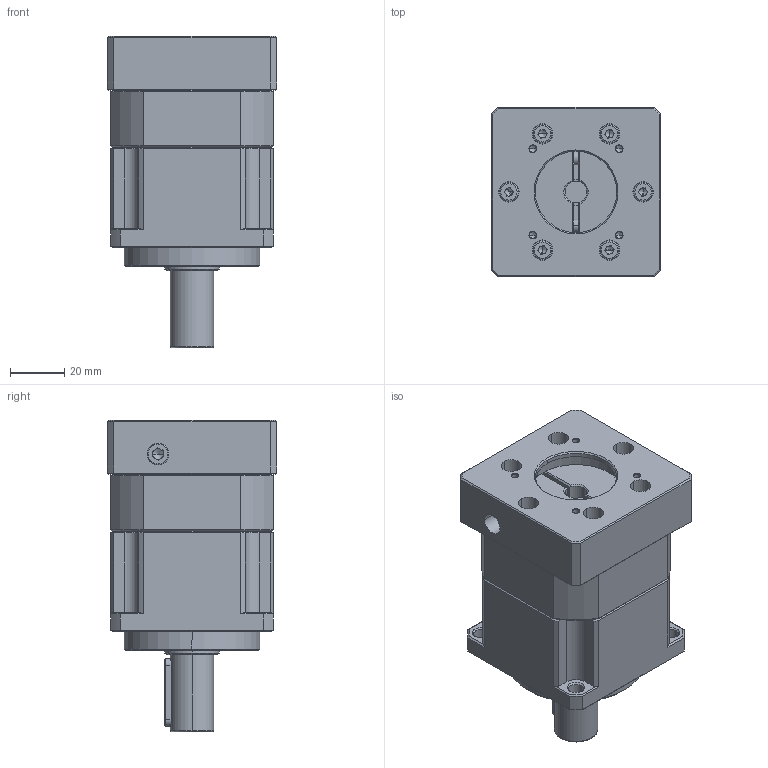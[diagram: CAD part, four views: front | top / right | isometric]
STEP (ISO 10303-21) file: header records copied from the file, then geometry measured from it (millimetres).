
FILE_DESCRIPTION (( 'STEP AP214' ), '1' );
FILE_NAME ('ZPB060-D16-L1-P1-8-30-45-M3.step', '2024-04-23T16:10:13', ( 'Windows 蚚誧' ), ( 'Organization' ), 'SwSTEP 2.0', 'SolidWorks 2016', '' );
FILE_SCHEMA (( 'AUTOMOTIVE_DESIGN' ));
Length unit declared in the file: millimetre
Products named in the file (1): ZPB060-D16-L1-P1-8-30-45-M3
Bounding box: 62.5 x 62.5 x 115 mm (x, y, z)
Volume: 250214.1 mm3; surface area: 73421.1 mm2
Topology: 16 solids, 17 shells, 2051 faces, 5759 edges, 3720 vertices
Faces by surface type: plane 1048, bspline 373, cylinder 302, cone 186, torus 96, sphere 46
Entity records: 107539 total; most frequent: CARTESIAN_POINT 35465, ORIENTED_EDGE 11178, DIRECTION 8734, EDGE_CURVE 5589, VERTEX_POINT 3651, LINE 3354, VECTOR 3354, AXIS2_PLACEMENT_3D 2690
